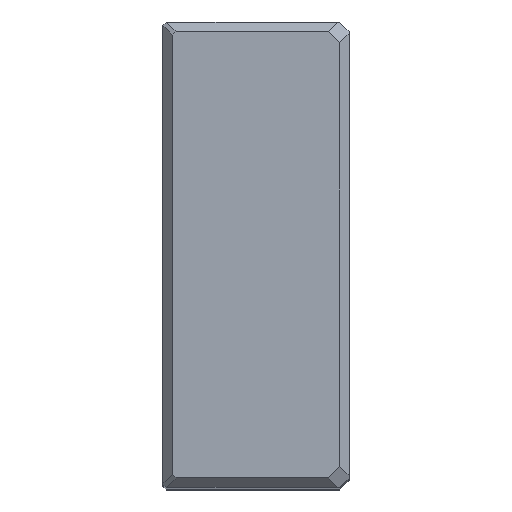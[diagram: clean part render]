
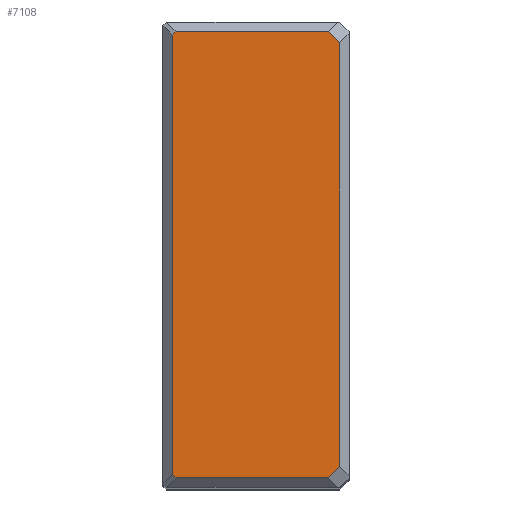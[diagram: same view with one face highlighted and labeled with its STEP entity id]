
A CAD part, top view. The second image highlights one B-rep face of the part: STEP entity #7108.
In plain terms, the highlighted planar face has unit normal (0, 0, 1).
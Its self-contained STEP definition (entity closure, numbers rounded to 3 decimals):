
#130=VERTEX_POINT(' ',#131);
#131=CARTESIAN_POINT('',(-3.,-68.326,0.));
#132=VERTEX_POINT(' ',#133);
#133=CARTESIAN_POINT('',(-6.674,-72.,0.));
#162=VERTEX_POINT(' ',#163);
#163=CARTESIAN_POINT('',(-3.,68.326,0.));
#170=VERTEX_POINT(' ',#171);
#171=CARTESIAN_POINT('',(-6.674,72.,0.));
#196=VERTEX_POINT(' ',#197);
#197=CARTESIAN_POINT('',(-55.775,-72.,0.));
#204=VERTEX_POINT(' ',#205);
#205=CARTESIAN_POINT('',(-57.,-70.775,0.));
#224=VERTEX_POINT(' ',#225);
#225=CARTESIAN_POINT('',(-57.,70.775,0.));
#228=VERTEX_POINT(' ',#229);
#229=CARTESIAN_POINT('',(-55.775,72.,0.));
#1511=LINE('',#1512,#1513);
#1512=CARTESIAN_POINT('',(32.663,-32.663,0.));
#1513=VECTOR('',#1514,1.);
#1514=DIRECTION('',(0.707,0.707,0.));
#1515=EDGE_CURVE(' ',#130,#132,#1511,.F.);
#1641=LINE('',#1642,#1643);
#1642=CARTESIAN_POINT('',(-3.,-75.12,0.));
#1643=VECTOR('',#1644,1.);
#1644=DIRECTION('',(0.,1.,0.));
#1645=EDGE_CURVE(' ',#130,#162,#1641,.T.);
#1666=LINE('',#1667,#1668);
#1667=CARTESIAN_POINT('',(32.663,32.663,0.));
#1668=VECTOR('',#1669,1.);
#1669=DIRECTION('',(-0.707,0.707,0.));
#1670=EDGE_CURVE(' ',#170,#162,#1666,.F.);
#1811=LINE('',#1812,#1813);
#1812=CARTESIAN_POINT('',(-60.12,-72.,0.));
#1813=VECTOR('',#1814,1.);
#1814=DIRECTION('',(1.,0.,0.));
#1815=EDGE_CURVE(' ',#196,#132,#1811,.T.);
#1826=LINE('',#1827,#1828);
#1827=CARTESIAN_POINT('',(-63.888,-63.888,0.));
#1828=VECTOR('',#1829,1.);
#1829=DIRECTION('',(0.707,-0.707,0.));
#1830=EDGE_CURVE(' ',#196,#204,#1826,.F.);
#1923=LINE('',#1924,#1925);
#1924=CARTESIAN_POINT('',(-57.,-75.12,0.));
#1925=VECTOR('',#1926,1.);
#1926=DIRECTION('',(0.,1.,0.));
#1927=EDGE_CURVE(' ',#204,#224,#1923,.T.);
#1928=LINE('',#1929,#1930);
#1929=CARTESIAN_POINT('',(-63.888,63.888,0.));
#1930=VECTOR('',#1931,1.);
#1931=DIRECTION('',(-0.707,-0.707,0.));
#1932=EDGE_CURVE(' ',#224,#228,#1928,.F.);
#1933=LINE('',#1934,#1935);
#1934=CARTESIAN_POINT('',(-60.12,72.,0.));
#1935=VECTOR('',#1936,1.);
#1936=DIRECTION('',(1.,0.,0.));
#1937=EDGE_CURVE(' ',#170,#228,#1933,.F.);
#7093=ORIENTED_EDGE('',*,*,#1932,.F.);
#7094=ORIENTED_EDGE('',*,*,#1927,.F.);
#7095=ORIENTED_EDGE('',*,*,#1830,.F.);
#7096=ORIENTED_EDGE('',*,*,#1815,.T.);
#7097=ORIENTED_EDGE('',*,*,#1515,.F.);
#7098=ORIENTED_EDGE('',*,*,#1645,.T.);
#7099=ORIENTED_EDGE('',*,*,#1670,.F.);
#7100=ORIENTED_EDGE('',*,*,#1937,.T.);
#7101=EDGE_LOOP('',(#7093,#7094,#7095,#7096,#7097,#7098,#7099,#7100));
#7102=FACE_OUTER_BOUND('',#7101,.T.);
#7103=PLANE('',#7104);
#7104=AXIS2_PLACEMENT_3D('',#7105,#7106,#7107);
#7105=CARTESIAN_POINT('',(-57.,0.,0.));
#7106=DIRECTION('',(0.,0.,1.));
#7107=DIRECTION('',(1.,0.,0.));
#7108=ADVANCED_FACE('',(#7102),#7103,.T.);
